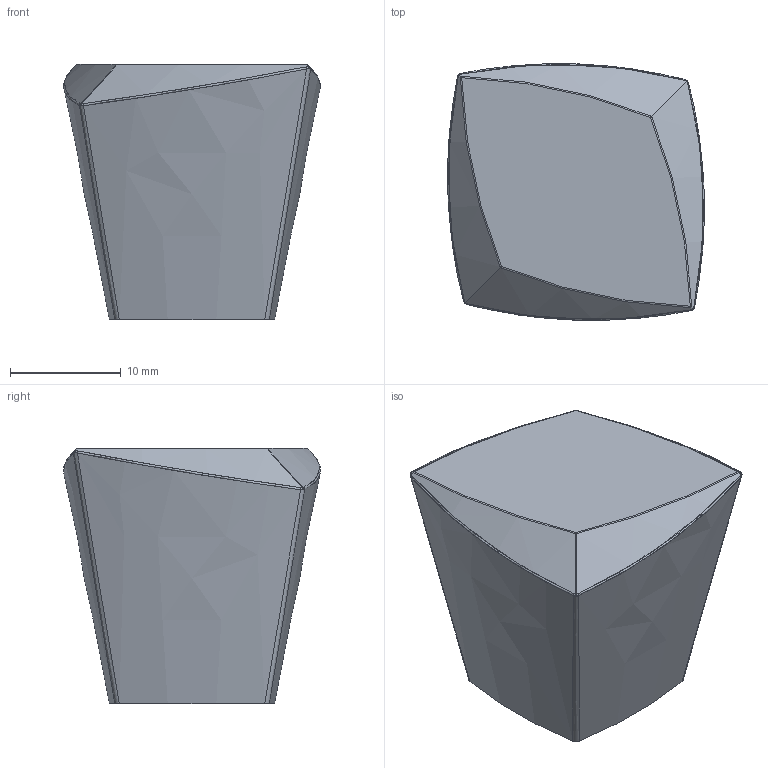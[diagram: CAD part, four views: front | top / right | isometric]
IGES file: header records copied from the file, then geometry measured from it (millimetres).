
Start section: C
Global section: file name: 8195-24.igs; native system: By Siemens PLM Incorporated; preprocessor: XPlus GENERIC/IGES 16.0.42; author: Author; organization: Title; date: 20210331.081938; units: millimetre
Bounding box: 23.15 x 23.15 x 23 mm (x, y, z)
Surface area: 3646.5 mm2 (no closed solid volume)
Topology: 0 solids, 0 shells, 69 faces, 337 edges, 332 vertices
Faces by surface type: bspline 69
